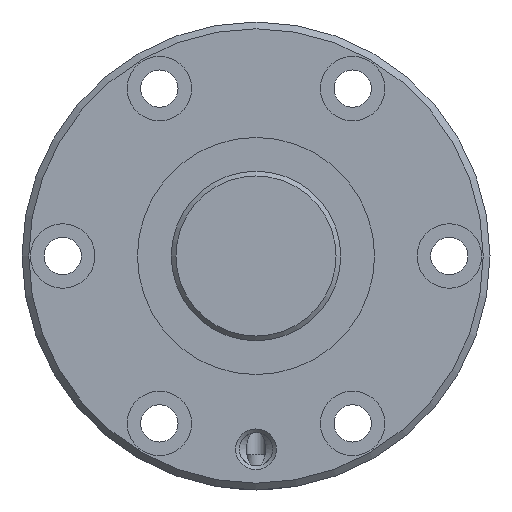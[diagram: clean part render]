
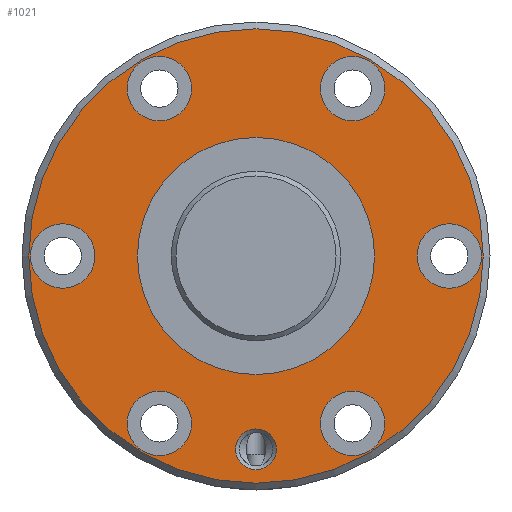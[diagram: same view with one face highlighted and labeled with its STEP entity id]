
A CAD part, left-side view. The second image highlights one B-rep face of the part: STEP entity #1021.
In plain terms, the highlighted planar face has unit normal (-1, 0, 0).
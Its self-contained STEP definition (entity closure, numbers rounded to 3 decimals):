
#162=ORIENTED_EDGE('',*,*,#385,.T.);
#163=ORIENTED_EDGE('',*,*,#386,.T.);
#164=ORIENTED_EDGE('',*,*,#387,.T.);
#165=ORIENTED_EDGE('',*,*,#388,.T.);
#166=ORIENTED_EDGE('',*,*,#389,.T.);
#167=ORIENTED_EDGE('',*,*,#390,.T.);
#168=ORIENTED_EDGE('',*,*,#391,.T.);
#169=ORIENTED_EDGE('',*,*,#392,.T.);
#170=ORIENTED_EDGE('',*,*,#384,.F.);
#384=EDGE_CURVE('',#499,#499,#593,.T.);
#385=EDGE_CURVE('',#500,#500,#594,.T.);
#386=EDGE_CURVE('',#501,#501,#595,.F.);
#387=EDGE_CURVE('',#502,#502,#596,.T.);
#388=EDGE_CURVE('',#503,#503,#597,.T.);
#389=EDGE_CURVE('',#504,#504,#598,.T.);
#390=EDGE_CURVE('',#505,#505,#599,.T.);
#391=EDGE_CURVE('',#506,#506,#600,.T.);
#392=EDGE_CURVE('',#507,#507,#601,.T.);
#499=VERTEX_POINT('',#1708);
#500=VERTEX_POINT('',#1711);
#501=VERTEX_POINT('',#1713);
#502=VERTEX_POINT('',#1715);
#503=VERTEX_POINT('',#1717);
#504=VERTEX_POINT('',#1719);
#505=VERTEX_POINT('',#1721);
#506=VERTEX_POINT('',#1723);
#507=VERTEX_POINT('',#1725);
#593=CIRCLE('',#1136,33.5);
#594=CIRCLE('',#1138,17.48);
#595=CIRCLE('',#1139,4.75);
#596=CIRCLE('',#1140,3.);
#597=CIRCLE('',#1141,4.75);
#598=CIRCLE('',#1142,4.75);
#599=CIRCLE('',#1143,4.75);
#600=CIRCLE('',#1144,4.75);
#601=CIRCLE('',#1145,4.75);
#682=EDGE_LOOP('',(#162));
#683=EDGE_LOOP('',(#163));
#684=EDGE_LOOP('',(#164));
#685=EDGE_LOOP('',(#165));
#686=EDGE_LOOP('',(#166));
#687=EDGE_LOOP('',(#167));
#688=EDGE_LOOP('',(#168));
#689=EDGE_LOOP('',(#169));
#690=EDGE_LOOP('',(#170));
#842=FACE_BOUND('',#682,.T.);
#843=FACE_BOUND('',#683,.T.);
#844=FACE_BOUND('',#684,.T.);
#845=FACE_BOUND('',#685,.T.);
#846=FACE_BOUND('',#686,.T.);
#847=FACE_BOUND('',#687,.T.);
#848=FACE_BOUND('',#688,.T.);
#849=FACE_BOUND('',#689,.T.);
#850=FACE_BOUND('',#690,.T.);
#984=PLANE('',#1137);
#1021=ADVANCED_FACE('',(#842,#843,#844,#845,#846,#847,#848,#849,#850),#984,
 .T.);
#1136=AXIS2_PLACEMENT_3D('',#1707,#1322,#1323);
#1137=AXIS2_PLACEMENT_3D('',#1709,#1324,#1325);
#1138=AXIS2_PLACEMENT_3D('',#1710,#1326,#1327);
#1139=AXIS2_PLACEMENT_3D('',#1712,#1328,#1329);
#1140=AXIS2_PLACEMENT_3D('',#1714,#1330,#1331);
#1141=AXIS2_PLACEMENT_3D('',#1716,#1332,#1333);
#1142=AXIS2_PLACEMENT_3D('',#1718,#1334,#1335);
#1143=AXIS2_PLACEMENT_3D('',#1720,#1336,#1337);
#1144=AXIS2_PLACEMENT_3D('',#1722,#1338,#1339);
#1145=AXIS2_PLACEMENT_3D('',#1724,#1340,#1341);
#1322=DIRECTION('',(1.,0.,0.));
#1323=DIRECTION('',(0.,0.,-1.));
#1324=DIRECTION('',(-1.,0.,0.));
#1325=DIRECTION('',(0.,0.,1.));
#1326=DIRECTION('',(1.,0.,0.));
#1327=DIRECTION('',(0.,0.,-1.));
#1328=DIRECTION('',(-1.,0.,0.));
#1329=DIRECTION('',(0.,0.,1.));
#1330=DIRECTION('',(1.,0.,0.));
#1331=DIRECTION('',(0.,0.,-1.));
#1332=DIRECTION('',(1.,0.,0.));
#1333=DIRECTION('',(0.,0.,-1.));
#1334=DIRECTION('',(1.,0.,0.));
#1335=DIRECTION('',(0.,0.,-1.));
#1336=DIRECTION('',(1.,0.,0.));
#1337=DIRECTION('',(0.,0.,-1.));
#1338=DIRECTION('',(1.,0.,0.));
#1339=DIRECTION('',(0.,0.,-1.));
#1340=DIRECTION('',(1.,0.,0.));
#1341=DIRECTION('',(0.,0.,-1.));
#1707=CARTESIAN_POINT('',(0.,0.,0.));
#1708=CARTESIAN_POINT('',(0.,0.,-33.5));
#1709=CARTESIAN_POINT('',(0.,33.5,0.));
#1710=CARTESIAN_POINT('',(0.,0.,0.));
#1711=CARTESIAN_POINT('',(0.,0.,-17.48));
#1712=CARTESIAN_POINT('',(0.,28.5,0.));
#1713=CARTESIAN_POINT('',(0.,28.5,4.75));
#1714=CARTESIAN_POINT('',(0.,0.,-28.5));
#1715=CARTESIAN_POINT('',(0.,0.,-31.5));
#1716=CARTESIAN_POINT('',(0.,-28.5,0.));
#1717=CARTESIAN_POINT('',(0.,-28.5,-4.75));
#1718=CARTESIAN_POINT('',(0.,14.25,24.682));
#1719=CARTESIAN_POINT('',(0.,14.25,19.932));
#1720=CARTESIAN_POINT('',(0.,-14.25,-24.682));
#1721=CARTESIAN_POINT('',(0.,-14.25,-29.432));
#1722=CARTESIAN_POINT('',(0.,-14.25,24.682));
#1723=CARTESIAN_POINT('',(0.,-14.25,19.932));
#1724=CARTESIAN_POINT('',(0.,14.25,-24.682));
#1725=CARTESIAN_POINT('',(0.,14.25,-29.432));
